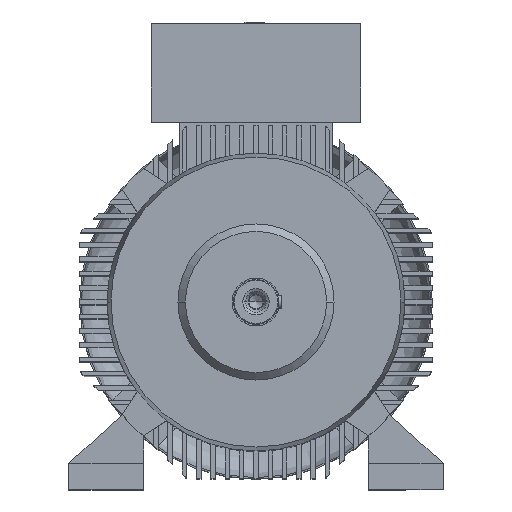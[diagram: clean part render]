
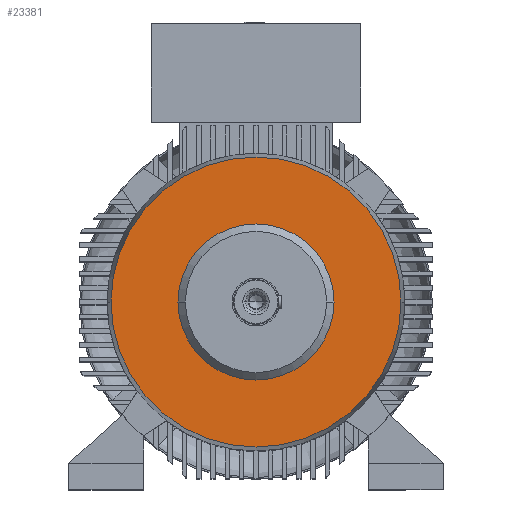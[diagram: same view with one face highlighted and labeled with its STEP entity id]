
A CAD part, top view. The second image highlights one B-rep face of the part: STEP entity #23381.
In plain terms, the highlighted planar face has unit normal (0, 0, 1).
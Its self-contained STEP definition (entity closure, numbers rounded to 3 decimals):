
#1233 = EDGE_CURVE ( 'NONE', #6734, #24037, #17205, .T. ) ;
#1347 = DIRECTION ( 'NONE',  ( -1., 0., 0. ) ) ;
#1386 = VERTEX_POINT ( 'NONE', #6300 ) ;
#1843 = AXIS2_PLACEMENT_3D ( 'NONE', #3414, #3593, #1347 ) ;
#2463 = CARTESIAN_POINT ( 'NONE',  ( -104.2, 0., 330.5 ) ) ;
#2976 = AXIS2_PLACEMENT_3D ( 'NONE', #13872, #12068, #18112 ) ;
#3414 = CARTESIAN_POINT ( 'NONE',  ( 0., 0., 330.5 ) ) ;
#3593 = DIRECTION ( 'NONE',  ( 0., 0., -1. ) ) ;
#3735 = PLANE ( 'NONE',  #10334 ) ;
#3820 = DIRECTION ( 'NONE',  ( 0., 1., 0. ) ) ;
#3917 = DIRECTION ( 'NONE',  ( 0., 0., -1. ) ) ;
#4330 = DIRECTION ( 'NONE',  ( 0., 0., 1. ) ) ;
#4408 = DIRECTION ( 'NONE',  ( -1., 0., 0. ) ) ;
#5525 = CIRCLE ( 'NONE', #1843, 193.542 ) ;
#6058 = DIRECTION ( 'NONE',  ( 0., 0., -1. ) ) ;
#6065 = CARTESIAN_POINT ( 'NONE',  ( 0., 193.542, 330.5 ) ) ;
#6094 = AXIS2_PLACEMENT_3D ( 'NONE', #10032, #6058, #12081 ) ;
#6300 = CARTESIAN_POINT ( 'NONE',  ( -193.542, 0., 330.5 ) ) ;
#6705 = EDGE_LOOP ( 'NONE', ( #10571, #8825 ) ) ;
#6734 = VERTEX_POINT ( 'NONE', #2463 ) ;
#7347 = EDGE_CURVE ( 'NONE', #24037, #6734, #7796, .T. ) ;
#7598 = EDGE_LOOP ( 'NONE', ( #25044, #25419 ) ) ;
#7796 = CIRCLE ( 'NONE', #19641, 104.2 ) ;
#8152 = VERTEX_POINT ( 'NONE', #10412 ) ;
#8825 = ORIENTED_EDGE ( 'NONE', *, *, #7347, .F. ) ;
#10032 = CARTESIAN_POINT ( 'NONE',  ( 0., 0., 330.5 ) ) ;
#10334 = AXIS2_PLACEMENT_3D ( 'NONE', #6065, #3917, #3820 ) ;
#10412 = CARTESIAN_POINT ( 'NONE',  ( 193.542, 0., 330.5 ) ) ;
#10468 = CARTESIAN_POINT ( 'NONE',  ( 104.2, 0., 330.5 ) ) ;
#10571 = ORIENTED_EDGE ( 'NONE', *, *, #1233, .F. ) ;
#12068 = DIRECTION ( 'NONE',  ( 0., 0., 1. ) ) ;
#12081 = DIRECTION ( 'NONE',  ( -1., 0., 0. ) ) ;
#12164 = CIRCLE ( 'NONE', #6094, 193.542 ) ;
#13161 = EDGE_CURVE ( 'NONE', #8152, #1386, #5525, .T. ) ;
#13872 = CARTESIAN_POINT ( 'NONE',  ( 0., 0., 330.5 ) ) ;
#16659 = CARTESIAN_POINT ( 'NONE',  ( 0., 0., 330.5 ) ) ;
#17205 = CIRCLE ( 'NONE', #2976, 104.2 ) ;
#18112 = DIRECTION ( 'NONE',  ( -1., 0., 0. ) ) ;
#19442 = EDGE_CURVE ( 'NONE', #1386, #8152, #12164, .T. ) ;
#19641 = AXIS2_PLACEMENT_3D ( 'NONE', #16659, #4330, #4408 ) ;
#21245 = FACE_BOUND ( 'NONE', #6705, .T. ) ;
#23381 = ADVANCED_FACE ( 'NONE', ( #24734, #21245 ), #3735, .F. ) ;
#24037 = VERTEX_POINT ( 'NONE', #10468 ) ;
#24734 = FACE_OUTER_BOUND ( 'NONE', #7598, .T. ) ;
#25044 = ORIENTED_EDGE ( 'NONE', *, *, #19442, .F. ) ;
#25419 = ORIENTED_EDGE ( 'NONE', *, *, #13161, .F. ) ;
